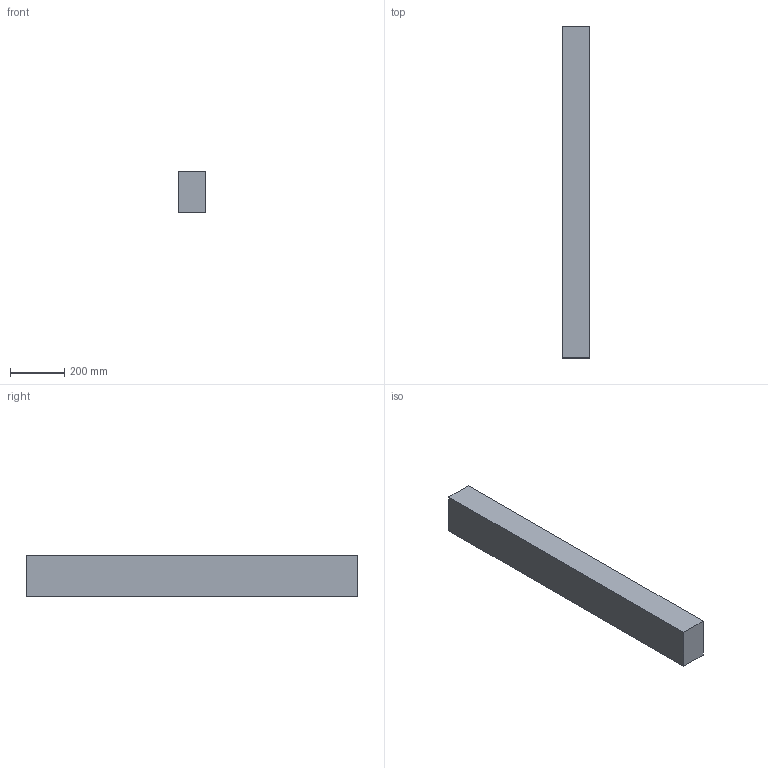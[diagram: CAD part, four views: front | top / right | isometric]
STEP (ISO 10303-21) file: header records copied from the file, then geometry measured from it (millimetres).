
FILE_DESCRIPTION(/* description */ (''),/* implementation_level */ '2;1');
FILE_NAME(/* name */ '4x6x48',/* time_stamp */ '2024-09-20T11:45:30-05:00',/* author */ (''),/* organization */ (''),/* preprocessor_version */ 'ST-DEVELOPER v19.2',/* originating_system */ 'Rhino 8.5',/* authorisation */ '');
FILE_SCHEMA (('CONFIG_CONTROL_DESIGN'));
Length unit declared in the file: inch
Products named in the file (1): Document
Bounding box: 101.6 x 1219.2 x 152.4 mm (x, y, z)
Volume: 18877897.7 mm3; surface area: 650321.3 mm2
Topology: 1 solids, 1 shells, 6 faces, 12 edges, 8 vertices
Faces by surface type: plane 6
Entity records: 226 total; most frequent: CARTESIAN_POINT 40, ORIENTED_EDGE 24, EDGE_CURVE 12, B_SPLINE_CURVE_WITH_KNOTS 12, DIRECTION 10, VERTEX_POINT 8, AXIS2_PLACEMENT_3D 8, ORGANIZATION 7
